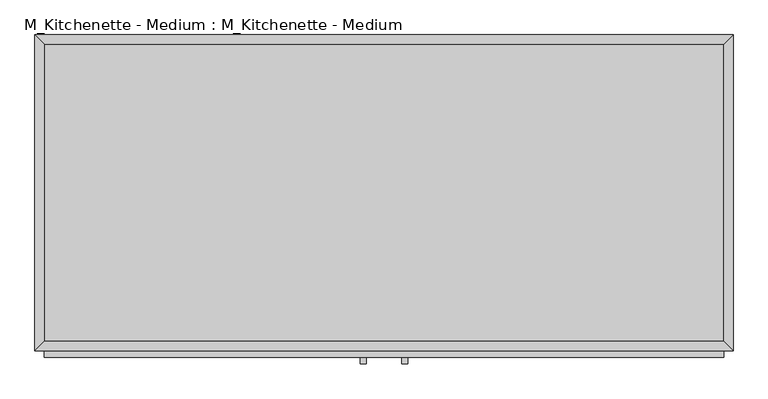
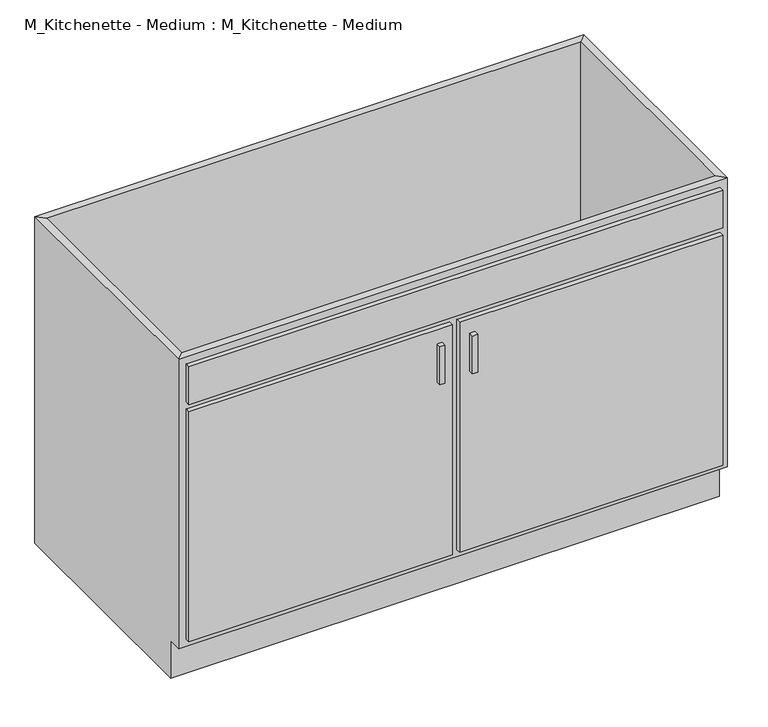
"""IFC4 building model written with IfcOpenShell, lengths in millimetres: proxy geometry, M_Kitchenette - Medium : M_Kitchenette - Medium."""

from ifc_helpers import new_model, si_unit, frame, origin, place, context, project, spatial, polyline, outline, extrude, faceted_brep, source, transform, mapped, element, save


def m_kitchenette_medium_m_kitchenette_medium_99ec13b9(model_context):
    return source(origin(), model_context, "Body", "SolidModel", [
        faceted_brep([(694.6877049, -610.95, 875.0), (694.6877049, -610.95, 100.0), (-657.2122951, -610.95, 100.0), (-657.2122951, -610.95, 875.0), (-676.2622951, -630.0, 875.0), (713.7377049, -630.0, 875.0), (-676.2622951, -630.0, 100.0), (713.7377049, -630.0, 100.0), (-657.2122951, -595.0, 100.0), (-657.2122951, -19.05, 100.0), (-657.2122951, -19.05, 875.0), (-676.2622951, 0.0, 875.0), (-676.2622951, 0.0, 0.0), (-676.2622951, -595.0, 0.0), (-676.2622951, -595.0, 100.0), (694.6877049, -19.05, 100.0), (694.6877049, -19.05, 875.0), (713.7377049, 0.0, 875.0), (713.7377049, 0.0, 0.0), (694.6877049, -595.0, 100.0), (713.7377049, -595.0, 100.0), (713.7377049, -595.0, 0.0)], [[[0, 1, 2, 3]], [[0, 3, 4, 5]], [[5, 4, 6, 7]], [[2, 1, 7, 6]], [[3, 2, 8, 9, 10]], [[4, 3, 10, 11]], [[6, 4, 11, 12, 13, 14]], [[2, 6, 14, 8]], [[10, 9, 15, 16]], [[11, 10, 16, 17]], [[12, 11, 17, 18]], [[1, 0, 16, 15, 19]], [[0, 5, 17, 16]], [[5, 7, 20, 21, 18, 17]], [[7, 1, 19, 20]], [[8, 19, 15, 9]], [[18, 21, 13, 12]], [[13, 21, 20, 19, 8, 14]]]),
        extrude(outline(polyline([(-16.1872951, -655.4), (-28.8872951, -655.4), (-28.8872951, -642.7), (-16.1872951, -642.7), (-16.1872951, -655.4)])), frame((0.0, 0.0, 595.6), z_axis=(0.0, 0.0, 1.0), x_axis=(1.0, 0.0, 0.0)), (0.0, 0.0, 1.0), 101.6),
        extrude(outline(polyline([(66.3627049, -655.4), (53.6627049, -655.4), (53.6627049, -642.7), (66.3627049, -642.7), (66.3627049, -655.4)])), frame((0.0, 0.0, 595.6), z_axis=(0.0, 0.0, 1.0), x_axis=(1.0, 0.0, 0.0)), (0.0, 0.0, 1.0), 101.6),
        extrude(outline(polyline([(694.6877049, -19.05), (694.6877049, -610.95), (-657.2122951, -610.95), (-657.2122951, -19.05), (694.6877049, -19.05)])), frame((0.0, 0.0, 100.0), z_axis=(0.0, 0.0, 1.0), x_axis=(1.0, 0.0, 0.0)), (0.0, 0.0, 1.0), 19.05),
        extrude(outline(polyline([(9.2127049, -642.7), (-657.2122951, -642.7), (-657.2122951, -630.0), (9.2127049, -630.0), (9.2127049, -642.7)])), frame((0.0, 0.0, 119.05), z_axis=(0.0, 0.0, 1.0), x_axis=(1.0, 0.0, 0.0)), (0.0, 0.0, 1.0), 616.25),
        extrude(outline(polyline([(694.6877049, -642.7), (28.2627049, -642.7), (28.2627049, -630.0), (694.6877049, -630.0), (694.6877049, -642.7)])), frame((0.0, 0.0, 119.05), z_axis=(0.0, 0.0, 1.0), x_axis=(1.0, 0.0, 0.0)), (0.0, 0.0, 1.0), 616.25),
        extrude(outline(polyline([(694.6877049, -642.7), (-657.2122951, -642.7), (-657.2122951, -630.0), (694.6877049, -630.0), (694.6877049, -642.7)])), frame((0.0, 0.0, 754.35), z_axis=(0.0, 0.0, 1.0), x_axis=(1.0, 0.0, 0.0)), (0.0, 0.0, 1.0), 101.6),
    ])


if __name__ == "__main__":
    model = new_model("IFC4")
    model_context = context("Model", 3, world=origin())
    ifc_project = project(units=[si_unit("LENGTHUNIT", "METRE", prefix="MILLI")], contexts=[model_context])
    site = spatial("IfcSite", under=ifc_project)
    building = spatial("IfcBuilding", under=site)
    placement = place(None, origin())
    m_kitchenette_medium_m_kitchenette_medium_shape = m_kitchenette_medium_m_kitchenette_medium_99ec13b9(model_context)
    element("IfcBuildingElementProxy", 1, Name="M_Kitchenette - Medium : M_Kitchenette - Medium", ObjectType="M_Kitchenette - Medium : M_Kitchenette - Medium", at=placement, inside=building, context=model_context, shape_type="MappedRepresentation", body=[
        mapped(m_kitchenette_medium_m_kitchenette_medium_shape, transform((0.0, 0.0, 0.0), x_axis=(1.0, 0.0, 0.0), y_axis=(0.0, 1.0, 0.0), z_axis=(0.0, 0.0, 1.0))),
    ])
    save(model, "model.ifc")
